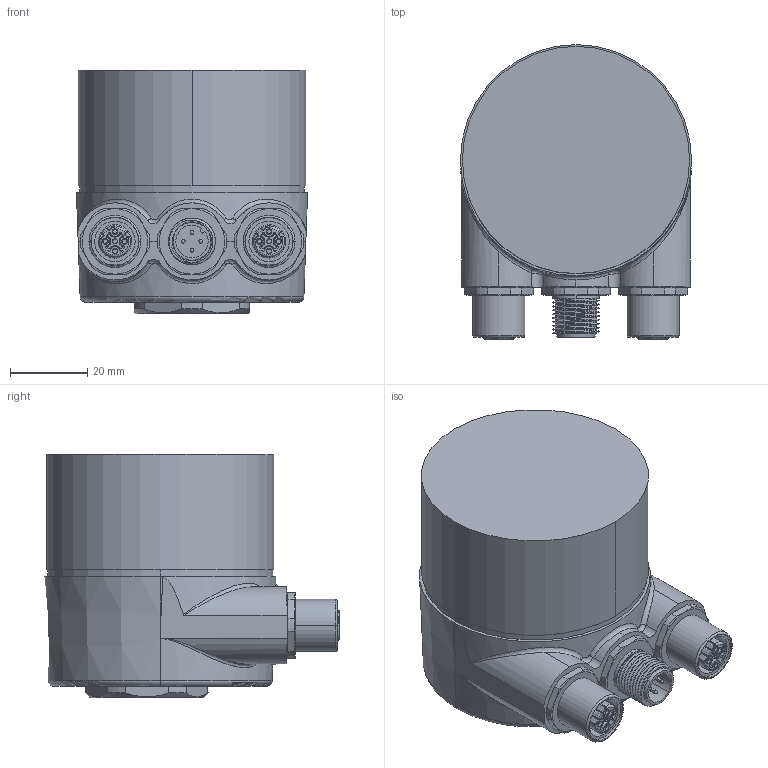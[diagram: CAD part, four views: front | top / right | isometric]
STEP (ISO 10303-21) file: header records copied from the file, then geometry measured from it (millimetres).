
FILE_DESCRIPTION (( 'STEP AP214' ), '1' );
FILE_NAME ('Drawing-OC-5-EE-595-SWS-EECEEC-Y.STEP', '2022-03-24T09:53:41', ( '' ), ( '' ), 'SwSTEP 2.0', 'SolidWorks 2021', '' );
FILE_SCHEMA (( 'AUTOMOTIVE_DESIGN' ));
Length unit declared in the file: millimetre
Products named in the file (1): Drawing-OC-5-EE-595-SWS-EECEEC-Y
Bounding box: 60 x 76.5 x 63.25 mm (x, y, z)
Volume: 187090.1 mm3; surface area: 28122 mm2
Topology: 4 solids, 11 shells, 663 faces, 1815 edges, 1249 vertices
Faces by surface type: cylinder 236, plane 187, cone 166, bspline 56, torus 14, sphere 4
Entity records: 35510 total; most frequent: CARTESIAN_POINT 12639, ORIENTED_EDGE 3574, DIRECTION 2893, EDGE_CURVE 1787, VERTEX_POINT 1241, AXIS2_PLACEMENT_3D 1127, EDGE_LOOP 770, ADVANCED_FACE 663
